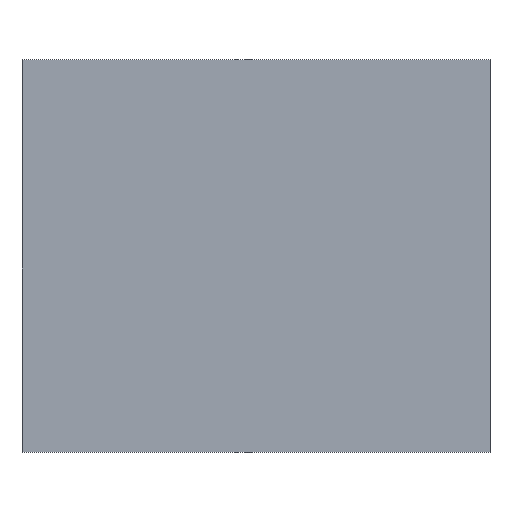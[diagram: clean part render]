
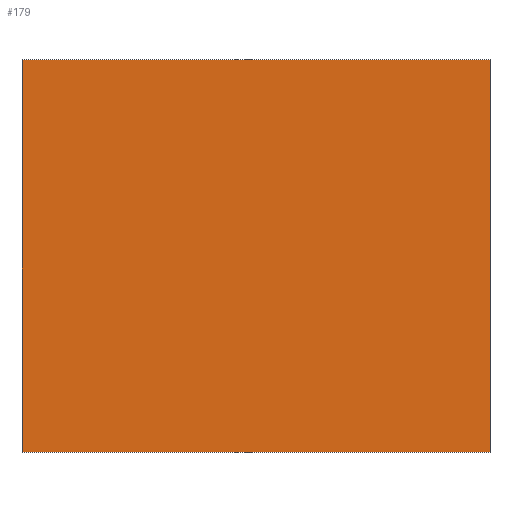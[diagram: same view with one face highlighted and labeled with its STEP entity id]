
A CAD part, top view. The second image highlights one B-rep face of the part: STEP entity #179.
In plain terms, the highlighted planar face has unit normal (0, 0, 1).
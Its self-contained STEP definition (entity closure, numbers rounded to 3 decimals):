
#171=AXIS2_PLACEMENT_3D('Plane Axis2P3D',#168,#169,#170) ;
#43=CARTESIAN_POINT('Vertex',(0.,0.,3.)) ;
#57=CARTESIAN_POINT('Vertex',(0.,-42.8,3.)) ;
#60=CARTESIAN_POINT('Line Origine',(0.,-21.4,3.)) ;
#88=CARTESIAN_POINT('Vertex',(51.,-42.8,3.)) ;
#91=CARTESIAN_POINT('Line Origine',(25.5,-42.8,3.)) ;
#119=CARTESIAN_POINT('Vertex',(51.,0.,3.)) ;
#122=CARTESIAN_POINT('Line Origine',(51.,-21.4,3.)) ;
#144=CARTESIAN_POINT('Line Origine',(25.5,0.,3.)) ;
#168=CARTESIAN_POINT('Axis2P3D Location',(0.,0.,3.)) ;
#61=DIRECTION('Vector Direction',(0.,-1.,0.)) ;
#92=DIRECTION('Vector Direction',(-1.,0.,0.)) ;
#123=DIRECTION('Vector Direction',(0.,1.,0.)) ;
#145=DIRECTION('Vector Direction',(1.,0.,0.)) ;
#169=DIRECTION('Axis2P3D Direction',(0.,0.,1.)) ;
#170=DIRECTION('Axis2P3D XDirection',(1.,0.,0.)) ;
#62=VECTOR('Line Direction',#61,1.) ;
#93=VECTOR('Line Direction',#92,1.) ;
#124=VECTOR('Line Direction',#123,1.) ;
#146=VECTOR('Line Direction',#145,1.) ;
#174=ORIENTED_EDGE('',*,*,#64,.T.) ;
#175=ORIENTED_EDGE('',*,*,#95,.T.) ;
#176=ORIENTED_EDGE('',*,*,#126,.T.) ;
#177=ORIENTED_EDGE('',*,*,#148,.T.) ;
#179=ADVANCED_FACE('\X2\96F64EF651E04F554F53\X0\',(#178),#172,.T.) ;
#64=EDGE_CURVE('',#44,#58,#63,.T.) ;
#95=EDGE_CURVE('',#58,#89,#94,.F.) ;
#126=EDGE_CURVE('',#89,#120,#125,.T.) ;
#148=EDGE_CURVE('',#120,#44,#147,.F.) ;
#173=EDGE_LOOP('',(#174,#175,#176,#177)) ;
#178=FACE_OUTER_BOUND('',#173,.T.) ;
#63=LINE('Line',#60,#62) ;
#94=LINE('Line',#91,#93) ;
#125=LINE('Line',#122,#124) ;
#147=LINE('Line',#144,#146) ;
#172=PLANE('',#171) ;
#44=VERTEX_POINT('',#43) ;
#58=VERTEX_POINT('',#57) ;
#89=VERTEX_POINT('',#88) ;
#120=VERTEX_POINT('',#119) ;
